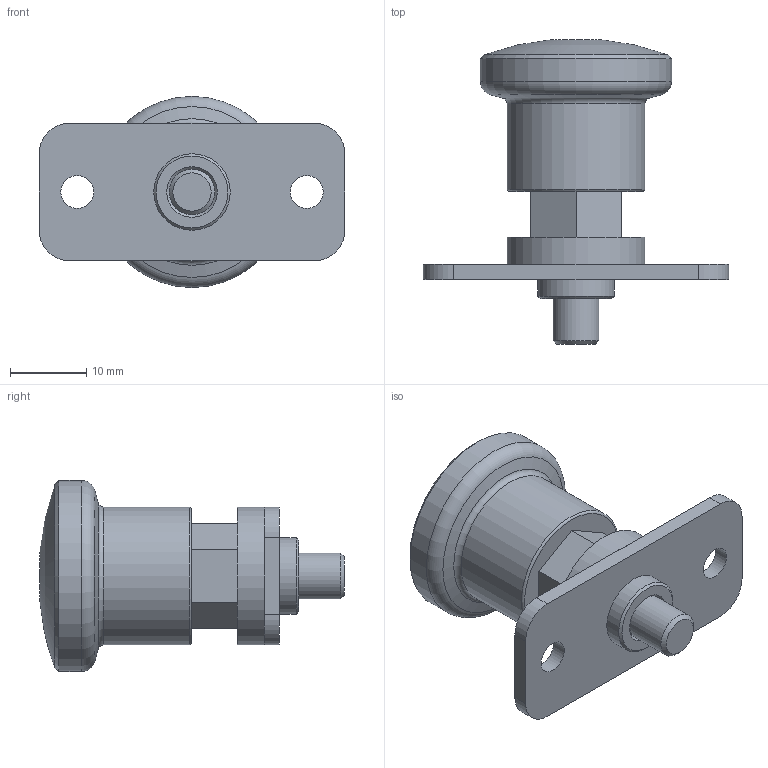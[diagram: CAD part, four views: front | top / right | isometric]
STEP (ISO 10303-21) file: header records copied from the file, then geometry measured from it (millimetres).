
FILE_DESCRIPTION( ( 'STEP AP203' ), '1' );
FILE_NAME( 'C:/Temp/Ganter_Step_05_03_2020/data/3_1/gn822_9/gn822_9_bn/Stainless Steel-Mini indexing plunger GN 822.9-6-12-BN (activated).stp', '2020-03-12T09:24:47', ( 'License CC BY-ND 4.0' ), ( 'CADENAS' ), ' ', 'PARTsolutions', ' ' );
FILE_SCHEMA( ( 'CONFIG_CONTROL_DESIGN' ) );
Length unit declared in the file: millimetre
Products named in the file (3): Stainless Steel-Mini indexing plunger GN 822.9-6-12-BN (activated); _Stainless Steel-Mini indexing plunger GN 822.9-6-12-BN (deactivated)_1; _Stainless Steel-Mini indexing plunger GN 822.9-6-12-BN (unbetaetigt)_2
Assembly tree (2 placements, depth 2):
  Stainless Steel-Mini indexing plunger GN 822.9-6-12-BN (activated)
    _Stainless Steel-Mini indexing plunger GN 822.9-6-12-BN (deactivated)_1
    _Stainless Steel-Mini indexing plunger GN 822.9-6-12-BN (unbetaetigt)_2
Bounding box: 40 x 39.87 x 25 mm (x, y, z)
Volume: 8835.7 mm3; surface area: 6354.6 mm2
Topology: 2 solids, 2 shells, 54 faces, 119 edges, 75 vertices
Faces by surface type: plane 28, cylinder 14, cone 8, torus 3, sphere 1
Full cylindrical faces by diameter (mm): 4 x1, 4.2 x1, 4.3 x2, 6 x2, 10 x1, 18 x2, 25 x1
Entity records: 1586 total; most frequent: CARTESIAN_POINT 371, DIRECTION 236, ORIENTED_EDGE 188, AXIS2_PLACEMENT_3D 97, EDGE_CURVE 94, EDGE_LOOP 88, VERTEX_POINT 72, FACE_OUTER_BOUND 68
